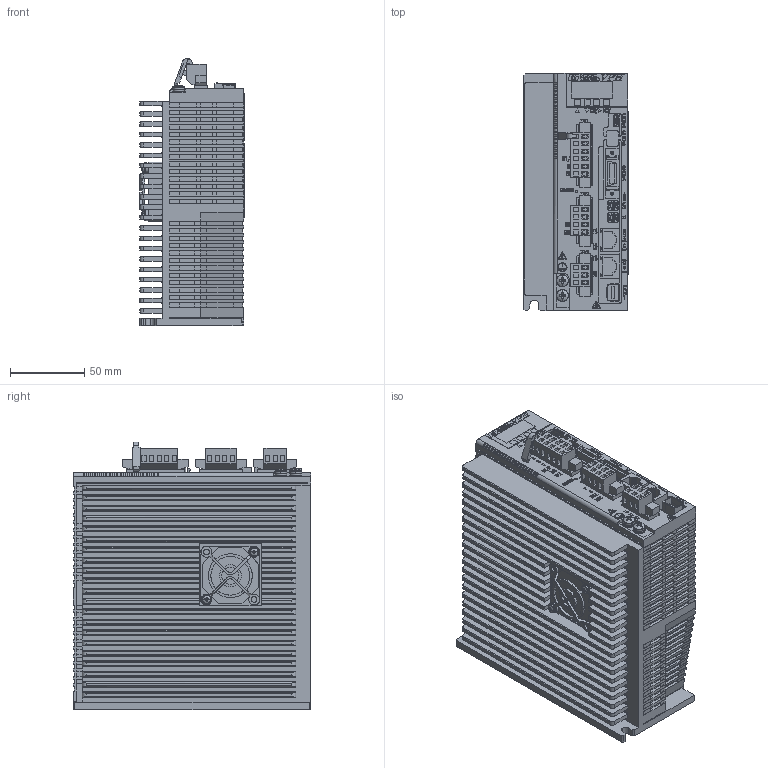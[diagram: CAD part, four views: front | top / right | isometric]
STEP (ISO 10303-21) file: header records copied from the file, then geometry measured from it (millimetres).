
FILE_DESCRIPTION (( 'STEP AP203' ), '1' );
FILE_NAME ('NCR-HD2_801#SE-78030B.STEP', '2022-07-28T02:56:21', ( '' ), ( '' ), 'SwSTEP 2.0', 'SolidWorks 2021', '' );
FILE_SCHEMA (( 'CONFIG_CONTROL_DESIGN' ));
Products named in the file (1): NCR-HD2_801#SE-78030B
Bounding box: 70.35 x 160 x 180.47 mm (x, y, z)
Volume: 1504310.6 mm3; surface area: 243997 mm2
Topology: 5 solids, 8 shells, 9116 faces, 25582 edges, 16951 vertices
Faces by surface type: plane 6947, bspline 1416, cylinder 678, cone 51, torus 16, sphere 8
Entity records: 341173 total; most frequent: CARTESIAN_POINT 114648, ORIENTED_EDGE 51148, DIRECTION 39375, EDGE_CURVE 25574, VECTOR 20979, LINE 20979, VERTEX_POINT 16951, EDGE_LOOP 9721
